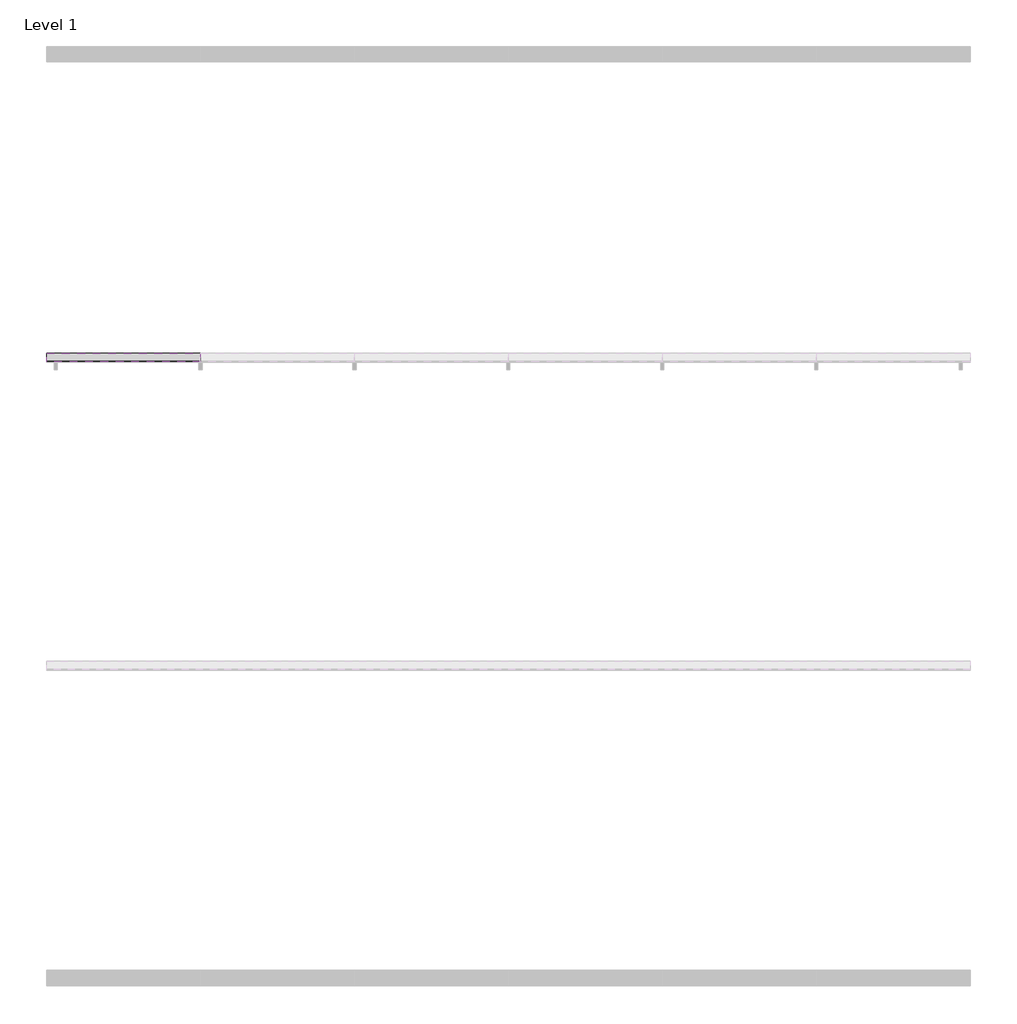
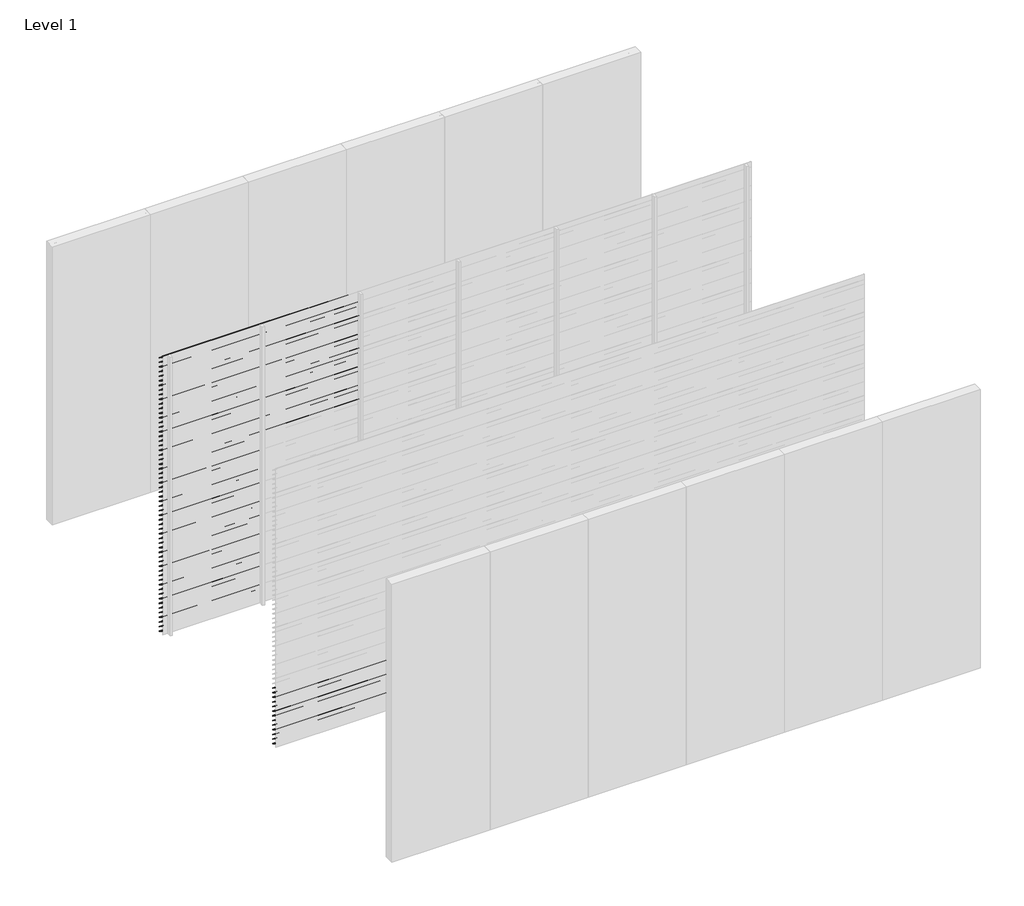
# One storey, part 11 of 18: 97 proxies.
"""IFC4 building model written with IfcOpenShell, lengths in millimetres."""

from ifc_helpers import new_model, si_unit, frame, origin, place, context, project, spatial, polyline, outline, extrude, element, save

model = new_model("IFC4")

# Units and contexts
model_context = context("Model", 3, world=origin())
ifc_project = project(units=[si_unit("LENGTHUNIT", "METRE", prefix="MILLI")], contexts=[model_context])

# Site, building, storey
site = spatial("IfcSite", under=ifc_project)
building = spatial("IfcBuilding", under=site)
storey = spatial("IfcBuildingStorey", under=building, Name="Level 1", Elevation=0.0)

# Proxies
placement = place(None, origin())
element("IfcBuildingElementProxy", 1, Name="Wall Sweeps", at=placement, inside=storey, context=model_context, shape_type="SweptSolid", body=[
    extrude(outline(polyline([(-5995.0, 3000.0), (-5995.0, 2991.0744429), (-5943.0, 2956.0), (-5943.0, 2950.0), (-5997.0, 2986.4234599), (-5997.0, 3000.0), (-5995.0, 3000.0)])), frame((0.0, 0.0, 0.0), z_axis=(1.0, 0.0, 0.0), x_axis=(0.0, 1.0, 0.0)), (0.0, 0.0, 1.0), 1000.0),
])
element("IfcBuildingElementProxy", 2, Name="Wall Sweeps", at=placement, inside=storey, context=model_context, shape_type="SweptSolid", body=[
    extrude(outline(polyline([(-5995.0, 2950.0), (-5995.0, 2941.0744429), (-5943.0, 2906.0), (-5943.0, 2900.0), (-5997.0, 2936.4234599), (-5997.0, 2950.0), (-5995.0, 2950.0)])), frame((0.0, 0.0, 0.0), z_axis=(1.0, 0.0, 0.0), x_axis=(0.0, 1.0, 0.0)), (0.0, 0.0, 1.0), 1000.0),
])
element("IfcBuildingElementProxy", 3, Name="Wall Sweeps", at=placement, inside=storey, context=model_context, shape_type="SweptSolid", body=[
    extrude(outline(polyline([(-5995.0, 2900.0), (-5995.0, 2891.0744429), (-5943.0, 2856.0), (-5943.0, 2850.0), (-5997.0, 2886.4234599), (-5997.0, 2900.0), (-5995.0, 2900.0)])), frame((0.0, 0.0, 0.0), z_axis=(1.0, 0.0, 0.0), x_axis=(0.0, 1.0, 0.0)), (0.0, 0.0, 1.0), 1000.0),
])
element("IfcBuildingElementProxy", 4, Name="Wall Sweeps", at=placement, inside=storey, context=model_context, shape_type="SweptSolid", body=[
    extrude(outline(polyline([(-5995.0, 2850.0), (-5995.0, 2841.0744429), (-5943.0, 2806.0), (-5943.0, 2800.0), (-5997.0, 2836.4234599), (-5997.0, 2850.0), (-5995.0, 2850.0)])), frame((0.0, 0.0, 0.0), z_axis=(1.0, 0.0, 0.0), x_axis=(0.0, 1.0, 0.0)), (0.0, 0.0, 1.0), 1000.0),
])
element("IfcBuildingElementProxy", 5, Name="Wall Sweeps", at=placement, inside=storey, context=model_context, shape_type="SweptSolid", body=[
    extrude(outline(polyline([(-5995.0, 2800.0), (-5995.0, 2791.0744429), (-5943.0, 2756.0), (-5943.0, 2750.0), (-5997.0, 2786.4234599), (-5997.0, 2800.0), (-5995.0, 2800.0)])), frame((0.0, 0.0, 0.0), z_axis=(1.0, 0.0, 0.0), x_axis=(0.0, 1.0, 0.0)), (0.0, 0.0, 1.0), 1000.0),
])
element("IfcBuildingElementProxy", 6, Name="Wall Sweeps", at=placement, inside=storey, context=model_context, shape_type="SweptSolid", body=[
    extrude(outline(polyline([(-5995.0, 2750.0), (-5995.0, 2741.0744429), (-5943.0, 2706.0), (-5943.0, 2700.0), (-5997.0, 2736.4234599), (-5997.0, 2750.0), (-5995.0, 2750.0)])), frame((0.0, 0.0, 0.0), z_axis=(1.0, 0.0, 0.0), x_axis=(0.0, 1.0, 0.0)), (0.0, 0.0, 1.0), 1000.0),
])
element("IfcBuildingElementProxy", 7, Name="Wall Sweeps", at=placement, inside=storey, context=model_context, shape_type="SweptSolid", body=[
    extrude(outline(polyline([(-5995.0, 2700.0), (-5995.0, 2691.0744429), (-5943.0, 2656.0), (-5943.0, 2650.0), (-5997.0, 2686.4234599), (-5997.0, 2700.0), (-5995.0, 2700.0)])), frame((0.0, 0.0, 0.0), z_axis=(1.0, 0.0, 0.0), x_axis=(0.0, 1.0, 0.0)), (0.0, 0.0, 1.0), 1000.0),
])
element("IfcBuildingElementProxy", 8, Name="Wall Sweeps", at=placement, inside=storey, context=model_context, shape_type="SweptSolid", body=[
    extrude(outline(polyline([(-5995.0, 2650.0), (-5995.0, 2641.0744429), (-5943.0, 2606.0), (-5943.0, 2600.0), (-5997.0, 2636.4234599), (-5997.0, 2650.0), (-5995.0, 2650.0)])), frame((0.0, 0.0, 0.0), z_axis=(1.0, 0.0, 0.0), x_axis=(0.0, 1.0, 0.0)), (0.0, 0.0, 1.0), 1000.0),
])
element("IfcBuildingElementProxy", 9, Name="Wall Sweeps", at=placement, inside=storey, context=model_context, shape_type="SweptSolid", body=[
    extrude(outline(polyline([(-5995.0, 2600.0), (-5995.0, 2591.0744429), (-5943.0, 2556.0), (-5943.0, 2550.0), (-5997.0, 2586.4234599), (-5997.0, 2600.0), (-5995.0, 2600.0)])), frame((0.0, 0.0, 0.0), z_axis=(1.0, 0.0, 0.0), x_axis=(0.0, 1.0, 0.0)), (0.0, 0.0, 1.0), 1000.0),
])
element("IfcBuildingElementProxy", 10, Name="Wall Sweeps", at=placement, inside=storey, context=model_context, shape_type="SweptSolid", body=[
    extrude(outline(polyline([(-5995.0, 2550.0), (-5995.0, 2541.0744429), (-5943.0, 2506.0), (-5943.0, 2500.0), (-5997.0, 2536.4234599), (-5997.0, 2550.0), (-5995.0, 2550.0)])), frame((0.0, 0.0, 0.0), z_axis=(1.0, 0.0, 0.0), x_axis=(0.0, 1.0, 0.0)), (0.0, 0.0, 1.0), 1000.0),
])
element("IfcBuildingElementProxy", 11, Name="Wall Sweeps", at=placement, inside=storey, context=model_context, shape_type="SweptSolid", body=[
    extrude(outline(polyline([(-5995.0, 2500.0), (-5995.0, 2491.0744429), (-5943.0, 2456.0), (-5943.0, 2450.0), (-5997.0, 2486.4234599), (-5997.0, 2500.0), (-5995.0, 2500.0)])), frame((0.0, 0.0, 0.0), z_axis=(1.0, 0.0, 0.0), x_axis=(0.0, 1.0, 0.0)), (0.0, 0.0, 1.0), 1000.0),
])
element("IfcBuildingElementProxy", 12, Name="Wall Sweeps", at=placement, inside=storey, context=model_context, shape_type="SweptSolid", body=[
    extrude(outline(polyline([(-5995.0, 2450.0), (-5995.0, 2441.0744429), (-5943.0, 2406.0), (-5943.0, 2400.0), (-5997.0, 2436.4234599), (-5997.0, 2450.0), (-5995.0, 2450.0)])), frame((0.0, 0.0, 0.0), z_axis=(1.0, 0.0, 0.0), x_axis=(0.0, 1.0, 0.0)), (0.0, 0.0, 1.0), 1000.0),
])
element("IfcBuildingElementProxy", 13, Name="Wall Sweeps", at=placement, inside=storey, context=model_context, shape_type="SweptSolid", body=[
    extrude(outline(polyline([(-5995.0, 2400.0), (-5995.0, 2391.0744429), (-5943.0, 2356.0), (-5943.0, 2350.0), (-5997.0, 2386.4234599), (-5997.0, 2400.0), (-5995.0, 2400.0)])), frame((0.0, 0.0, 0.0), z_axis=(1.0, 0.0, 0.0), x_axis=(0.0, 1.0, 0.0)), (0.0, 0.0, 1.0), 1000.0),
])
element("IfcBuildingElementProxy", 14, Name="Wall Sweeps", at=placement, inside=storey, context=model_context, shape_type="SweptSolid", body=[
    extrude(outline(polyline([(-5995.0, 2350.0), (-5995.0, 2341.0744429), (-5943.0, 2306.0), (-5943.0, 2300.0), (-5997.0, 2336.4234599), (-5997.0, 2350.0), (-5995.0, 2350.0)])), frame((0.0, 0.0, 0.0), z_axis=(1.0, 0.0, 0.0), x_axis=(0.0, 1.0, 0.0)), (0.0, 0.0, 1.0), 1000.0),
])
element("IfcBuildingElementProxy", 15, Name="Wall Sweeps", at=placement, inside=storey, context=model_context, shape_type="SweptSolid", body=[
    extrude(outline(polyline([(-5995.0, 2300.0), (-5995.0, 2291.0744429), (-5943.0, 2256.0), (-5943.0, 2250.0), (-5997.0, 2286.4234599), (-5997.0, 2300.0), (-5995.0, 2300.0)])), frame((0.0, 0.0, 0.0), z_axis=(1.0, 0.0, 0.0), x_axis=(0.0, 1.0, 0.0)), (0.0, 0.0, 1.0), 1000.0),
])
element("IfcBuildingElementProxy", 16, Name="Wall Sweeps", at=placement, inside=storey, context=model_context, shape_type="SweptSolid", body=[
    extrude(outline(polyline([(-5995.0, 2250.0), (-5995.0, 2241.0744429), (-5943.0, 2206.0), (-5943.0, 2200.0), (-5997.0, 2236.4234599), (-5997.0, 2250.0), (-5995.0, 2250.0)])), frame((0.0, 0.0, 0.0), z_axis=(1.0, 0.0, 0.0), x_axis=(0.0, 1.0, 0.0)), (0.0, 0.0, 1.0), 1000.0),
])
element("IfcBuildingElementProxy", 17, Name="Wall Sweeps", at=placement, inside=storey, context=model_context, shape_type="SweptSolid", body=[
    extrude(outline(polyline([(-5995.0, 2200.0), (-5995.0, 2191.0744429), (-5943.0, 2156.0), (-5943.0, 2150.0), (-5997.0, 2186.4234599), (-5997.0, 2200.0), (-5995.0, 2200.0)])), frame((0.0, 0.0, 0.0), z_axis=(1.0, 0.0, 0.0), x_axis=(0.0, 1.0, 0.0)), (0.0, 0.0, 1.0), 1000.0),
])
element("IfcBuildingElementProxy", 18, Name="Wall Sweeps", at=placement, inside=storey, context=model_context, shape_type="SweptSolid", body=[
    extrude(outline(polyline([(-5995.0, 2150.0), (-5995.0, 2141.0744429), (-5943.0, 2106.0), (-5943.0, 2100.0), (-5997.0, 2136.4234599), (-5997.0, 2150.0), (-5995.0, 2150.0)])), frame((0.0, 0.0, 0.0), z_axis=(1.0, 0.0, 0.0), x_axis=(0.0, 1.0, 0.0)), (0.0, 0.0, 1.0), 1000.0),
])
element("IfcBuildingElementProxy", 19, Name="Wall Sweeps", at=placement, inside=storey, context=model_context, shape_type="SweptSolid", body=[
    extrude(outline(polyline([(-5995.0, 2100.0), (-5995.0, 2091.0744429), (-5943.0, 2056.0), (-5943.0, 2050.0), (-5997.0, 2086.4234599), (-5997.0, 2100.0), (-5995.0, 2100.0)])), frame((0.0, 0.0, 0.0), z_axis=(1.0, 0.0, 0.0), x_axis=(0.0, 1.0, 0.0)), (0.0, 0.0, 1.0), 1000.0),
])
element("IfcBuildingElementProxy", 20, Name="Wall Sweeps", at=placement, inside=storey, context=model_context, shape_type="SweptSolid", body=[
    extrude(outline(polyline([(-5995.0, 2050.0), (-5995.0, 2041.0744429), (-5943.0, 2006.0), (-5943.0, 2000.0), (-5997.0, 2036.4234599), (-5997.0, 2050.0), (-5995.0, 2050.0)])), frame((0.0, 0.0, 0.0), z_axis=(1.0, 0.0, 0.0), x_axis=(0.0, 1.0, 0.0)), (0.0, 0.0, 1.0), 1000.0),
])
element("IfcBuildingElementProxy", 21, Name="Wall Sweeps", at=placement, inside=storey, context=model_context, shape_type="SweptSolid", body=[
    extrude(outline(polyline([(-5995.0, 2000.0), (-5995.0, 1991.0744429), (-5943.0, 1956.0), (-5943.0, 1950.0), (-5997.0, 1986.4234599), (-5997.0, 2000.0), (-5995.0, 2000.0)])), frame((0.0, 0.0, 0.0), z_axis=(1.0, 0.0, 0.0), x_axis=(0.0, 1.0, 0.0)), (0.0, 0.0, 1.0), 1000.0),
])
element("IfcBuildingElementProxy", 22, Name="Wall Sweeps", at=placement, inside=storey, context=model_context, shape_type="SweptSolid", body=[
    extrude(outline(polyline([(-5995.0, 1950.0), (-5995.0, 1941.0744429), (-5943.0, 1906.0), (-5943.0, 1900.0), (-5997.0, 1936.4234599), (-5997.0, 1950.0), (-5995.0, 1950.0)])), frame((0.0, 0.0, 0.0), z_axis=(1.0, 0.0, 0.0), x_axis=(0.0, 1.0, 0.0)), (0.0, 0.0, 1.0), 1000.0),
])
element("IfcBuildingElementProxy", 23, Name="Wall Sweeps", at=placement, inside=storey, context=model_context, shape_type="SweptSolid", body=[
    extrude(outline(polyline([(-5995.0, 1900.0), (-5995.0, 1891.0744429), (-5943.0, 1856.0), (-5943.0, 1850.0), (-5997.0, 1886.4234599), (-5997.0, 1900.0), (-5995.0, 1900.0)])), frame((0.0, 0.0, 0.0), z_axis=(1.0, 0.0, 0.0), x_axis=(0.0, 1.0, 0.0)), (0.0, 0.0, 1.0), 1000.0),
])
element("IfcBuildingElementProxy", 24, Name="Wall Sweeps", at=placement, inside=storey, context=model_context, shape_type="SweptSolid", body=[
    extrude(outline(polyline([(-5995.0, 1850.0), (-5995.0, 1841.0744429), (-5943.0, 1806.0), (-5943.0, 1800.0), (-5997.0, 1836.4234599), (-5997.0, 1850.0), (-5995.0, 1850.0)])), frame((0.0, 0.0, 0.0), z_axis=(1.0, 0.0, 0.0), x_axis=(0.0, 1.0, 0.0)), (0.0, 0.0, 1.0), 1000.0),
])
element("IfcBuildingElementProxy", 25, Name="Wall Sweeps", at=placement, inside=storey, context=model_context, shape_type="SweptSolid", body=[
    extrude(outline(polyline([(-5995.0, 1800.0), (-5995.0, 1791.0744429), (-5943.0, 1756.0), (-5943.0, 1750.0), (-5997.0, 1786.4234599), (-5997.0, 1800.0), (-5995.0, 1800.0)])), frame((0.0, 0.0, 0.0), z_axis=(1.0, 0.0, 0.0), x_axis=(0.0, 1.0, 0.0)), (0.0, 0.0, 1.0), 1000.0),
])
element("IfcBuildingElementProxy", 26, Name="Wall Sweeps", at=placement, inside=storey, context=model_context, shape_type="SweptSolid", body=[
    extrude(outline(polyline([(-5995.0, 1750.0), (-5995.0, 1741.0744429), (-5943.0, 1706.0), (-5943.0, 1700.0), (-5997.0, 1736.4234599), (-5997.0, 1750.0), (-5995.0, 1750.0)])), frame((0.0, 0.0, 0.0), z_axis=(1.0, 0.0, 0.0), x_axis=(0.0, 1.0, 0.0)), (0.0, 0.0, 1.0), 1000.0),
])
element("IfcBuildingElementProxy", 27, Name="Wall Sweeps", at=placement, inside=storey, context=model_context, shape_type="SweptSolid", body=[
    extrude(outline(polyline([(-5995.0, 1700.0), (-5995.0, 1691.0744429), (-5943.0, 1656.0), (-5943.0, 1650.0), (-5997.0, 1686.4234599), (-5997.0, 1700.0), (-5995.0, 1700.0)])), frame((0.0, 0.0, 0.0), z_axis=(1.0, 0.0, 0.0), x_axis=(0.0, 1.0, 0.0)), (0.0, 0.0, 1.0), 1000.0),
])
element("IfcBuildingElementProxy", 28, Name="Wall Sweeps", at=placement, inside=storey, context=model_context, shape_type="SweptSolid", body=[
    extrude(outline(polyline([(-5995.0, 1650.0), (-5995.0, 1641.0744429), (-5943.0, 1606.0), (-5943.0, 1600.0), (-5997.0, 1636.4234599), (-5997.0, 1650.0), (-5995.0, 1650.0)])), frame((0.0, 0.0, 0.0), z_axis=(1.0, 0.0, 0.0), x_axis=(0.0, 1.0, 0.0)), (0.0, 0.0, 1.0), 1000.0),
])
element("IfcBuildingElementProxy", 29, Name="Wall Sweeps", at=placement, inside=storey, context=model_context, shape_type="SweptSolid", body=[
    extrude(outline(polyline([(-5995.0, 1600.0), (-5995.0, 1591.0744429), (-5943.0, 1556.0), (-5943.0, 1550.0), (-5997.0, 1586.4234599), (-5997.0, 1600.0), (-5995.0, 1600.0)])), frame((0.0, 0.0, 0.0), z_axis=(1.0, 0.0, 0.0), x_axis=(0.0, 1.0, 0.0)), (0.0, 0.0, 1.0), 1000.0),
])
element("IfcBuildingElementProxy", 30, Name="Wall Sweeps", at=placement, inside=storey, context=model_context, shape_type="SweptSolid", body=[
    extrude(outline(polyline([(-5995.0, 1550.0), (-5995.0, 1541.0744429), (-5943.0, 1506.0), (-5943.0, 1500.0), (-5997.0, 1536.4234599), (-5997.0, 1550.0), (-5995.0, 1550.0)])), frame((0.0, 0.0, 0.0), z_axis=(1.0, 0.0, 0.0), x_axis=(0.0, 1.0, 0.0)), (0.0, 0.0, 1.0), 1000.0),
])
element("IfcBuildingElementProxy", 31, Name="Wall Sweeps", at=placement, inside=storey, context=model_context, shape_type="SweptSolid", body=[
    extrude(outline(polyline([(-5995.0, 1500.0), (-5995.0, 1491.0744429), (-5943.0, 1456.0), (-5943.0, 1450.0), (-5997.0, 1486.4234599), (-5997.0, 1500.0), (-5995.0, 1500.0)])), frame((0.0, 0.0, 0.0), z_axis=(1.0, 0.0, 0.0), x_axis=(0.0, 1.0, 0.0)), (0.0, 0.0, 1.0), 1000.0),
])
element("IfcBuildingElementProxy", 32, Name="Wall Sweeps", at=placement, inside=storey, context=model_context, shape_type="SweptSolid", body=[
    extrude(outline(polyline([(-5995.0, 1450.0), (-5995.0, 1441.0744429), (-5943.0, 1406.0), (-5943.0, 1400.0), (-5997.0, 1436.4234599), (-5997.0, 1450.0), (-5995.0, 1450.0)])), frame((0.0, 0.0, 0.0), z_axis=(1.0, 0.0, 0.0), x_axis=(0.0, 1.0, 0.0)), (0.0, 0.0, 1.0), 1000.0),
])
element("IfcBuildingElementProxy", 33, Name="Wall Sweeps", at=placement, inside=storey, context=model_context, shape_type="SweptSolid", body=[
    extrude(outline(polyline([(-5995.0, 1400.0), (-5995.0, 1391.0744429), (-5943.0, 1356.0), (-5943.0, 1350.0), (-5997.0, 1386.4234599), (-5997.0, 1400.0), (-5995.0, 1400.0)])), frame((0.0, 0.0, 0.0), z_axis=(1.0, 0.0, 0.0), x_axis=(0.0, 1.0, 0.0)), (0.0, 0.0, 1.0), 1000.0),
])
element("IfcBuildingElementProxy", 34, Name="Wall Sweeps", at=placement, inside=storey, context=model_context, shape_type="SweptSolid", body=[
    extrude(outline(polyline([(-5995.0, 1350.0), (-5995.0, 1341.0744429), (-5943.0, 1306.0), (-5943.0, 1300.0), (-5997.0, 1336.4234599), (-5997.0, 1350.0), (-5995.0, 1350.0)])), frame((0.0, 0.0, 0.0), z_axis=(1.0, 0.0, 0.0), x_axis=(0.0, 1.0, 0.0)), (0.0, 0.0, 1.0), 1000.0),
])
element("IfcBuildingElementProxy", 35, Name="Wall Sweeps", at=placement, inside=storey, context=model_context, shape_type="SweptSolid", body=[
    extrude(outline(polyline([(-5995.0, 1300.0), (-5995.0, 1291.0744429), (-5943.0, 1256.0), (-5943.0, 1250.0), (-5997.0, 1286.4234599), (-5997.0, 1300.0), (-5995.0, 1300.0)])), frame((0.0, 0.0, 0.0), z_axis=(1.0, 0.0, 0.0), x_axis=(0.0, 1.0, 0.0)), (0.0, 0.0, 1.0), 1000.0),
])
element("IfcBuildingElementProxy", 36, Name="Wall Sweeps", at=placement, inside=storey, context=model_context, shape_type="SweptSolid", body=[
    extrude(outline(polyline([(-5995.0, 1250.0), (-5995.0, 1241.0744429), (-5943.0, 1206.0), (-5943.0, 1200.0), (-5997.0, 1236.4234599), (-5997.0, 1250.0), (-5995.0, 1250.0)])), frame((0.0, 0.0, 0.0), z_axis=(1.0, 0.0, 0.0), x_axis=(0.0, 1.0, 0.0)), (0.0, 0.0, 1.0), 1000.0),
])
element("IfcBuildingElementProxy", 37, Name="Wall Sweeps", at=placement, inside=storey, context=model_context, shape_type="SweptSolid", body=[
    extrude(outline(polyline([(-5995.0, 1200.0), (-5995.0, 1191.0744429), (-5943.0, 1156.0), (-5943.0, 1150.0), (-5997.0, 1186.4234599), (-5997.0, 1200.0), (-5995.0, 1200.0)])), frame((0.0, 0.0, 0.0), z_axis=(1.0, 0.0, 0.0), x_axis=(0.0, 1.0, 0.0)), (0.0, 0.0, 1.0), 1000.0),
])
element("IfcBuildingElementProxy", 38, Name="Wall Sweeps", at=placement, inside=storey, context=model_context, shape_type="SweptSolid", body=[
    extrude(outline(polyline([(-5995.0, 1150.0), (-5995.0, 1141.0744429), (-5943.0, 1106.0), (-5943.0, 1100.0), (-5997.0, 1136.4234599), (-5997.0, 1150.0), (-5995.0, 1150.0)])), frame((0.0, 0.0, 0.0), z_axis=(1.0, 0.0, 0.0), x_axis=(0.0, 1.0, 0.0)), (0.0, 0.0, 1.0), 1000.0),
])
element("IfcBuildingElementProxy", 39, Name="Wall Sweeps", at=placement, inside=storey, context=model_context, shape_type="SweptSolid", body=[
    extrude(outline(polyline([(-5995.0, 1100.0), (-5995.0, 1091.0744429), (-5943.0, 1056.0), (-5943.0, 1050.0), (-5997.0, 1086.4234599), (-5997.0, 1100.0), (-5995.0, 1100.0)])), frame((0.0, 0.0, 0.0), z_axis=(1.0, 0.0, 0.0), x_axis=(0.0, 1.0, 0.0)), (0.0, 0.0, 1.0), 1000.0),
])
element("IfcBuildingElementProxy", 40, Name="Wall Sweeps", at=placement, inside=storey, context=model_context, shape_type="SweptSolid", body=[
    extrude(outline(polyline([(-5995.0, 1050.0), (-5995.0, 1041.0744429), (-5943.0, 1006.0), (-5943.0, 1000.0), (-5997.0, 1036.4234599), (-5997.0, 1050.0), (-5995.0, 1050.0)])), frame((0.0, 0.0, 0.0), z_axis=(1.0, 0.0, 0.0), x_axis=(0.0, 1.0, 0.0)), (0.0, 0.0, 1.0), 1000.0),
])
element("IfcBuildingElementProxy", 41, Name="Wall Sweeps", at=placement, inside=storey, context=model_context, shape_type="SweptSolid", body=[
    extrude(outline(polyline([(-5995.0, 1000.0), (-5995.0, 991.0744429), (-5943.0, 956.0), (-5943.0, 950.0), (-5997.0, 986.4234599), (-5997.0, 1000.0), (-5995.0, 1000.0)])), frame((0.0, 0.0, 0.0), z_axis=(1.0, 0.0, 0.0), x_axis=(0.0, 1.0, 0.0)), (0.0, 0.0, 1.0), 1000.0),
])
element("IfcBuildingElementProxy", 42, Name="Wall Sweeps", at=placement, inside=storey, context=model_context, shape_type="SweptSolid", body=[
    extrude(outline(polyline([(-5995.0, 950.0), (-5995.0, 941.0744429), (-5943.0, 906.0), (-5943.0, 900.0), (-5997.0, 936.4234599), (-5997.0, 950.0), (-5995.0, 950.0)])), frame((0.0, 0.0, 0.0), z_axis=(1.0, 0.0, 0.0), x_axis=(0.0, 1.0, 0.0)), (0.0, 0.0, 1.0), 1000.0),
])
element("IfcBuildingElementProxy", 43, Name="Wall Sweeps", at=placement, inside=storey, context=model_context, shape_type="SweptSolid", body=[
    extrude(outline(polyline([(-5995.0, 900.0), (-5995.0, 891.0744429), (-5943.0, 856.0), (-5943.0, 850.0), (-5997.0, 886.4234599), (-5997.0, 900.0), (-5995.0, 900.0)])), frame((0.0, 0.0, 0.0), z_axis=(1.0, 0.0, 0.0), x_axis=(0.0, 1.0, 0.0)), (0.0, 0.0, 1.0), 1000.0),
])
element("IfcBuildingElementProxy", 44, Name="Wall Sweeps", at=placement, inside=storey, context=model_context, shape_type="SweptSolid", body=[
    extrude(outline(polyline([(-5995.0, 850.0), (-5995.0, 841.0744429), (-5943.0, 806.0), (-5943.0, 800.0), (-5997.0, 836.4234599), (-5997.0, 850.0), (-5995.0, 850.0)])), frame((0.0, 0.0, 0.0), z_axis=(1.0, 0.0, 0.0), x_axis=(0.0, 1.0, 0.0)), (0.0, 0.0, 1.0), 1000.0),
])
element("IfcBuildingElementProxy", 45, Name="Wall Sweeps", at=placement, inside=storey, context=model_context, shape_type="SweptSolid", body=[
    extrude(outline(polyline([(-5995.0, 800.0), (-5995.0, 791.0744429), (-5943.0, 756.0), (-5943.0, 750.0), (-5997.0, 786.4234599), (-5997.0, 800.0), (-5995.0, 800.0)])), frame((0.0, 0.0, 0.0), z_axis=(1.0, 0.0, 0.0), x_axis=(0.0, 1.0, 0.0)), (0.0, 0.0, 1.0), 1000.0),
])
element("IfcBuildingElementProxy", 46, Name="Wall Sweeps", at=placement, inside=storey, context=model_context, shape_type="SweptSolid", body=[
    extrude(outline(polyline([(-5995.0, 750.0), (-5995.0, 741.0744429), (-5943.0, 706.0), (-5943.0, 700.0), (-5997.0, 736.4234599), (-5997.0, 750.0), (-5995.0, 750.0)])), frame((0.0, 0.0, 0.0), z_axis=(1.0, 0.0, 0.0), x_axis=(0.0, 1.0, 0.0)), (0.0, 0.0, 1.0), 1000.0),
])
element("IfcBuildingElementProxy", 47, Name="Wall Sweeps", at=placement, inside=storey, context=model_context, shape_type="SweptSolid", body=[
    extrude(outline(polyline([(-5995.0, 700.0), (-5995.0, 691.0744429), (-5943.0, 656.0), (-5943.0, 650.0), (-5997.0, 686.4234599), (-5997.0, 700.0), (-5995.0, 700.0)])), frame((0.0, 0.0, 0.0), z_axis=(1.0, 0.0, 0.0), x_axis=(0.0, 1.0, 0.0)), (0.0, 0.0, 1.0), 1000.0),
])
element("IfcBuildingElementProxy", 48, Name="Wall Sweeps", at=placement, inside=storey, context=model_context, shape_type="SweptSolid", body=[
    extrude(outline(polyline([(-5995.0, 650.0), (-5995.0, 641.0744429), (-5943.0, 606.0), (-5943.0, 600.0), (-5997.0, 636.4234599), (-5997.0, 650.0), (-5995.0, 650.0)])), frame((0.0, 0.0, 0.0), z_axis=(1.0, 0.0, 0.0), x_axis=(0.0, 1.0, 0.0)), (0.0, 0.0, 1.0), 1000.0),
])
element("IfcBuildingElementProxy", 49, Name="Wall Sweeps", at=placement, inside=storey, context=model_context, shape_type="SweptSolid", body=[
    extrude(outline(polyline([(-5995.0, 600.0), (-5995.0, 591.0744429), (-5943.0, 556.0), (-5943.0, 550.0), (-5997.0, 586.4234599), (-5997.0, 600.0), (-5995.0, 600.0)])), frame((0.0, 0.0, 0.0), z_axis=(1.0, 0.0, 0.0), x_axis=(0.0, 1.0, 0.0)), (0.0, 0.0, 1.0), 1000.0),
])
element("IfcBuildingElementProxy", 50, Name="Wall Sweeps", at=placement, inside=storey, context=model_context, shape_type="SweptSolid", body=[
    extrude(outline(polyline([(-5995.0, 550.0), (-5995.0, 541.0744429), (-5943.0, 506.0), (-5943.0, 500.0), (-5997.0, 536.4234599), (-5997.0, 550.0), (-5995.0, 550.0)])), frame((0.0, 0.0, 0.0), z_axis=(1.0, 0.0, 0.0), x_axis=(0.0, 1.0, 0.0)), (0.0, 0.0, 1.0), 1000.0),
])
element("IfcBuildingElementProxy", 51, Name="Wall Sweeps", at=placement, inside=storey, context=model_context, shape_type="SweptSolid", body=[
    extrude(outline(polyline([(-5995.0, 500.0), (-5995.0, 491.0744429), (-5943.0, 456.0), (-5943.0, 450.0), (-5997.0, 486.4234599), (-5997.0, 500.0), (-5995.0, 500.0)])), frame((0.0, 0.0, 0.0), z_axis=(1.0, 0.0, 0.0), x_axis=(0.0, 1.0, 0.0)), (0.0, 0.0, 1.0), 1000.0),
])
element("IfcBuildingElementProxy", 52, Name="Wall Sweeps", at=placement, inside=storey, context=model_context, shape_type="SweptSolid", body=[
    extrude(outline(polyline([(-5995.0, 450.0), (-5995.0, 441.0744429), (-5943.0, 406.0), (-5943.0, 400.0), (-5997.0, 436.4234599), (-5997.0, 450.0), (-5995.0, 450.0)])), frame((0.0, 0.0, 0.0), z_axis=(1.0, 0.0, 0.0), x_axis=(0.0, 1.0, 0.0)), (0.0, 0.0, 1.0), 1000.0),
])
element("IfcBuildingElementProxy", 53, Name="Wall Sweeps", at=placement, inside=storey, context=model_context, shape_type="SweptSolid", body=[
    extrude(outline(polyline([(-5995.0, 400.0), (-5995.0, 391.0744429), (-5943.0, 356.0), (-5943.0, 350.0), (-5997.0, 386.4234599), (-5997.0, 400.0), (-5995.0, 400.0)])), frame((0.0, 0.0, 0.0), z_axis=(1.0, 0.0, 0.0), x_axis=(0.0, 1.0, 0.0)), (0.0, 0.0, 1.0), 1000.0),
])
element("IfcBuildingElementProxy", 54, Name="Wall Sweeps", at=placement, inside=storey, context=model_context, shape_type="SweptSolid", body=[
    extrude(outline(polyline([(-5995.0, 350.0), (-5995.0, 341.0744429), (-5943.0, 306.0), (-5943.0, 300.0), (-5997.0, 336.4234599), (-5997.0, 350.0), (-5995.0, 350.0)])), frame((0.0, 0.0, 0.0), z_axis=(1.0, 0.0, 0.0), x_axis=(0.0, 1.0, 0.0)), (0.0, 0.0, 1.0), 1000.0),
])
element("IfcBuildingElementProxy", 55, Name="Wall Sweeps", at=placement, inside=storey, context=model_context, shape_type="SweptSolid", body=[
    extrude(outline(polyline([(-5995.0, 300.0), (-5995.0, 291.0744429), (-5943.0, 256.0), (-5943.0, 250.0), (-5997.0, 286.4234599), (-5997.0, 300.0), (-5995.0, 300.0)])), frame((0.0, 0.0, 0.0), z_axis=(1.0, 0.0, 0.0), x_axis=(0.0, 1.0, 0.0)), (0.0, 0.0, 1.0), 1000.0),
])
element("IfcBuildingElementProxy", 56, Name="Wall Sweeps", at=placement, inside=storey, context=model_context, shape_type="SweptSolid", body=[
    extrude(outline(polyline([(-5995.0, 250.0), (-5995.0, 241.0744429), (-5943.0, 206.0), (-5943.0, 200.0), (-5997.0, 236.4234599), (-5997.0, 250.0), (-5995.0, 250.0)])), frame((0.0, 0.0, 0.0), z_axis=(1.0, 0.0, 0.0), x_axis=(0.0, 1.0, 0.0)), (0.0, 0.0, 1.0), 1000.0),
])
element("IfcBuildingElementProxy", 57, Name="Wall Sweeps", at=placement, inside=storey, context=model_context, shape_type="SweptSolid", body=[
    extrude(outline(polyline([(-5995.0, 200.0), (-5995.0, 191.0744429), (-5943.0, 156.0), (-5943.0, 150.0), (-5997.0, 186.4234599), (-5997.0, 200.0), (-5995.0, 200.0)])), frame((0.0, 0.0, 0.0), z_axis=(1.0, 0.0, 0.0), x_axis=(0.0, 1.0, 0.0)), (0.0, 0.0, 1.0), 1000.0),
])
element("IfcBuildingElementProxy", 58, Name="Wall Sweeps", at=placement, inside=storey, context=model_context, shape_type="SweptSolid", body=[
    extrude(outline(polyline([(-5995.0, 150.0), (-5995.0, 141.0744429), (-5943.0, 106.0), (-5943.0, 100.0), (-5997.0, 136.4234599), (-5997.0, 150.0), (-5995.0, 150.0)])), frame((0.0, 0.0, 0.0), z_axis=(1.0, 0.0, 0.0), x_axis=(0.0, 1.0, 0.0)), (0.0, 0.0, 1.0), 1000.0),
])
element("IfcBuildingElementProxy", 59, Name="Wall Sweeps", at=placement, inside=storey, context=model_context, shape_type="SweptSolid", body=[
    extrude(outline(polyline([(-5995.0, 100.0), (-5995.0, 91.0744429), (-5943.0, 56.0), (-5943.0, 50.0), (-5997.0, 86.4234599), (-5997.0, 100.0), (-5995.0, 100.0)])), frame((0.0, 0.0, 0.0), z_axis=(1.0, 0.0, 0.0), x_axis=(0.0, 1.0, 0.0)), (0.0, 0.0, 1.0), 1000.0),
])
element("IfcBuildingElementProxy", 60, Name="Wall Sweeps", at=placement, inside=storey, context=model_context, shape_type="SweptSolid", body=[
    extrude(outline(polyline([(-5995.0, 50.0), (-5995.0, 41.0744429), (-5943.0, 6.0), (-5943.0, 0.0), (-5997.0, 36.4234599), (-5997.0, 50.0), (-5995.0, 50.0)])), frame((0.0, 0.0, 0.0), z_axis=(1.0, 0.0, 0.0), x_axis=(0.0, 1.0, 0.0)), (0.0, 0.0, 1.0), 1000.0),
])
element("IfcBuildingElementProxy", 61, Name="Wall Sweeps", at=placement, inside=storey, context=model_context, shape_type="SweptSolid", body=[
    extrude(outline(polyline([(-5995.0, 3000.0), (-5995.0, 2991.0744429), (-5943.0, 2956.0), (-5943.0, 2950.0), (-5997.0, 2986.4234599), (-5997.0, 3000.0), (-5995.0, 3000.0)])), frame((1000.0, 0.0, 0.0), z_axis=(1.0, 0.0, 0.0), x_axis=(0.0, 1.0, 0.0)), (0.0, 0.0, 1.0), 1000.0),
])
element("IfcBuildingElementProxy", 62, Name="Wall Sweeps", at=placement, inside=storey, context=model_context, shape_type="SweptSolid", body=[
    extrude(outline(polyline([(-5995.0, 2950.0), (-5995.0, 2941.0744429), (-5943.0, 2906.0), (-5943.0, 2900.0), (-5997.0, 2936.4234599), (-5997.0, 2950.0), (-5995.0, 2950.0)])), frame((1000.0, 0.0, 0.0), z_axis=(1.0, 0.0, 0.0), x_axis=(0.0, 1.0, 0.0)), (0.0, 0.0, 1.0), 1000.0),
])
element("IfcBuildingElementProxy", 63, Name="Wall Sweeps", at=placement, inside=storey, context=model_context, shape_type="SweptSolid", body=[
    extrude(outline(polyline([(-5995.0, 2900.0), (-5995.0, 2891.0744429), (-5943.0, 2856.0), (-5943.0, 2850.0), (-5997.0, 2886.4234599), (-5997.0, 2900.0), (-5995.0, 2900.0)])), frame((1000.0, 0.0, 0.0), z_axis=(1.0, 0.0, 0.0), x_axis=(0.0, 1.0, 0.0)), (0.0, 0.0, 1.0), 1000.0),
])
element("IfcBuildingElementProxy", 64, Name="Wall Sweeps", at=placement, inside=storey, context=model_context, shape_type="SweptSolid", body=[
    extrude(outline(polyline([(-5995.0, 2850.0), (-5995.0, 2841.0744429), (-5943.0, 2806.0), (-5943.0, 2800.0), (-5997.0, 2836.4234599), (-5997.0, 2850.0), (-5995.0, 2850.0)])), frame((1000.0, 0.0, 0.0), z_axis=(1.0, 0.0, 0.0), x_axis=(0.0, 1.0, 0.0)), (0.0, 0.0, 1.0), 1000.0),
])
element("IfcBuildingElementProxy", 65, Name="Wall Sweeps", at=placement, inside=storey, context=model_context, shape_type="SweptSolid", body=[
    extrude(outline(polyline([(-5995.0, 2800.0), (-5995.0, 2791.0744429), (-5943.0, 2756.0), (-5943.0, 2750.0), (-5997.0, 2786.4234599), (-5997.0, 2800.0), (-5995.0, 2800.0)])), frame((1000.0, 0.0, 0.0), z_axis=(1.0, 0.0, 0.0), x_axis=(0.0, 1.0, 0.0)), (0.0, 0.0, 1.0), 1000.0),
])
element("IfcBuildingElementProxy", 66, Name="Wall Sweeps", at=placement, inside=storey, context=model_context, shape_type="SweptSolid", body=[
    extrude(outline(polyline([(-5995.0, 2750.0), (-5995.0, 2741.0744429), (-5943.0, 2706.0), (-5943.0, 2700.0), (-5997.0, 2736.4234599), (-5997.0, 2750.0), (-5995.0, 2750.0)])), frame((1000.0, 0.0, 0.0), z_axis=(1.0, 0.0, 0.0), x_axis=(0.0, 1.0, 0.0)), (0.0, 0.0, 1.0), 1000.0),
])
element("IfcBuildingElementProxy", 67, Name="Wall Sweeps", at=placement, inside=storey, context=model_context, shape_type="SweptSolid", body=[
    extrude(outline(polyline([(-5995.0, 2700.0), (-5995.0, 2691.0744429), (-5943.0, 2656.0), (-5943.0, 2650.0), (-5997.0, 2686.4234599), (-5997.0, 2700.0), (-5995.0, 2700.0)])), frame((1000.0, 0.0, 0.0), z_axis=(1.0, 0.0, 0.0), x_axis=(0.0, 1.0, 0.0)), (0.0, 0.0, 1.0), 1000.0),
])
element("IfcBuildingElementProxy", 68, Name="Wall Sweeps", at=placement, inside=storey, context=model_context, shape_type="SweptSolid", body=[
    extrude(outline(polyline([(-5995.0, 2650.0), (-5995.0, 2641.0744429), (-5943.0, 2606.0), (-5943.0, 2600.0), (-5997.0, 2636.4234599), (-5997.0, 2650.0), (-5995.0, 2650.0)])), frame((1000.0, 0.0, 0.0), z_axis=(1.0, 0.0, 0.0), x_axis=(0.0, 1.0, 0.0)), (0.0, 0.0, 1.0), 1000.0),
])
element("IfcBuildingElementProxy", 69, Name="Wall Sweeps", at=placement, inside=storey, context=model_context, shape_type="SweptSolid", body=[
    extrude(outline(polyline([(-5995.0, 2600.0), (-5995.0, 2591.0744429), (-5943.0, 2556.0), (-5943.0, 2550.0), (-5997.0, 2586.4234599), (-5997.0, 2600.0), (-5995.0, 2600.0)])), frame((1000.0, 0.0, 0.0), z_axis=(1.0, 0.0, 0.0), x_axis=(0.0, 1.0, 0.0)), (0.0, 0.0, 1.0), 1000.0),
])
element("IfcBuildingElementProxy", 70, Name="Wall Sweeps", at=placement, inside=storey, context=model_context, shape_type="SweptSolid", body=[
    extrude(outline(polyline([(-5995.0, 2550.0), (-5995.0, 2541.0744429), (-5943.0, 2506.0), (-5943.0, 2500.0), (-5997.0, 2536.4234599), (-5997.0, 2550.0), (-5995.0, 2550.0)])), frame((1000.0, 0.0, 0.0), z_axis=(1.0, 0.0, 0.0), x_axis=(0.0, 1.0, 0.0)), (0.0, 0.0, 1.0), 1000.0),
])
element("IfcBuildingElementProxy", 71, Name="Wall Sweeps", at=placement, inside=storey, context=model_context, shape_type="SweptSolid", body=[
    extrude(outline(polyline([(-5995.0, 2500.0), (-5995.0, 2491.0744429), (-5943.0, 2456.0), (-5943.0, 2450.0), (-5997.0, 2486.4234599), (-5997.0, 2500.0), (-5995.0, 2500.0)])), frame((1000.0, 0.0, 0.0), z_axis=(1.0, 0.0, 0.0), x_axis=(0.0, 1.0, 0.0)), (0.0, 0.0, 1.0), 1000.0),
])
element("IfcBuildingElementProxy", 72, Name="Wall Sweeps", at=placement, inside=storey, context=model_context, shape_type="SweptSolid", body=[
    extrude(outline(polyline([(-5995.0, 2450.0), (-5995.0, 2441.0744429), (-5943.0, 2406.0), (-5943.0, 2400.0), (-5997.0, 2436.4234599), (-5997.0, 2450.0), (-5995.0, 2450.0)])), frame((1000.0, 0.0, 0.0), z_axis=(1.0, 0.0, 0.0), x_axis=(0.0, 1.0, 0.0)), (0.0, 0.0, 1.0), 1000.0),
])
element("IfcBuildingElementProxy", 73, Name="Wall Sweeps", at=placement, inside=storey, context=model_context, shape_type="SweptSolid", body=[
    extrude(outline(polyline([(-5995.0, 2400.0), (-5995.0, 2391.0744429), (-5943.0, 2356.0), (-5943.0, 2350.0), (-5997.0, 2386.4234599), (-5997.0, 2400.0), (-5995.0, 2400.0)])), frame((1000.0, 0.0, 0.0), z_axis=(1.0, 0.0, 0.0), x_axis=(0.0, 1.0, 0.0)), (0.0, 0.0, 1.0), 1000.0),
])
element("IfcBuildingElementProxy", 74, Name="Wall Sweeps", at=placement, inside=storey, context=model_context, shape_type="SweptSolid", body=[
    extrude(outline(polyline([(-5995.0, 2350.0), (-5995.0, 2341.0744429), (-5943.0, 2306.0), (-5943.0, 2300.0), (-5997.0, 2336.4234599), (-5997.0, 2350.0), (-5995.0, 2350.0)])), frame((1000.0, 0.0, 0.0), z_axis=(1.0, 0.0, 0.0), x_axis=(0.0, 1.0, 0.0)), (0.0, 0.0, 1.0), 1000.0),
])
element("IfcBuildingElementProxy", 75, Name="Wall Sweeps", at=placement, inside=storey, context=model_context, shape_type="SweptSolid", body=[
    extrude(outline(polyline([(-5995.0, 2300.0), (-5995.0, 2291.0744429), (-5943.0, 2256.0), (-5943.0, 2250.0), (-5997.0, 2286.4234599), (-5997.0, 2300.0), (-5995.0, 2300.0)])), frame((1000.0, 0.0, 0.0), z_axis=(1.0, 0.0, 0.0), x_axis=(0.0, 1.0, 0.0)), (0.0, 0.0, 1.0), 1000.0),
])
element("IfcBuildingElementProxy", 76, Name="Wall Sweeps", at=placement, inside=storey, context=model_context, shape_type="SweptSolid", body=[
    extrude(outline(polyline([(-5995.0, 2250.0), (-5995.0, 2241.0744429), (-5943.0, 2206.0), (-5943.0, 2200.0), (-5997.0, 2236.4234599), (-5997.0, 2250.0), (-5995.0, 2250.0)])), frame((1000.0, 0.0, 0.0), z_axis=(1.0, 0.0, 0.0), x_axis=(0.0, 1.0, 0.0)), (0.0, 0.0, 1.0), 1000.0),
])
element("IfcBuildingElementProxy", 77, Name="Wall Sweeps", at=placement, inside=storey, context=model_context, shape_type="SweptSolid", body=[
    extrude(outline(polyline([(-5995.0, 2200.0), (-5995.0, 2191.0744429), (-5943.0, 2156.0), (-5943.0, 2150.0), (-5997.0, 2186.4234599), (-5997.0, 2200.0), (-5995.0, 2200.0)])), frame((1000.0, 0.0, 0.0), z_axis=(1.0, 0.0, 0.0), x_axis=(0.0, 1.0, 0.0)), (0.0, 0.0, 1.0), 1000.0),
])
element("IfcBuildingElementProxy", 78, Name="Wall Sweeps", at=placement, inside=storey, context=model_context, shape_type="SweptSolid", body=[
    extrude(outline(polyline([(-5995.0, 2150.0), (-5995.0, 2141.0744429), (-5943.0, 2106.0), (-5943.0, 2100.0), (-5997.0, 2136.4234599), (-5997.0, 2150.0), (-5995.0, 2150.0)])), frame((1000.0, 0.0, 0.0), z_axis=(1.0, 0.0, 0.0), x_axis=(0.0, 1.0, 0.0)), (0.0, 0.0, 1.0), 1000.0),
])
element("IfcBuildingElementProxy", 79, Name="Wall Sweeps", at=placement, inside=storey, context=model_context, shape_type="SweptSolid", body=[
    extrude(outline(polyline([(-5995.0, 2100.0), (-5995.0, 2091.0744429), (-5943.0, 2056.0), (-5943.0, 2050.0), (-5997.0, 2086.4234599), (-5997.0, 2100.0), (-5995.0, 2100.0)])), frame((1000.0, 0.0, 0.0), z_axis=(1.0, 0.0, 0.0), x_axis=(0.0, 1.0, 0.0)), (0.0, 0.0, 1.0), 1000.0),
])
element("IfcBuildingElementProxy", 80, Name="Wall Sweeps", at=placement, inside=storey, context=model_context, shape_type="SweptSolid", body=[
    extrude(outline(polyline([(-5995.0, 2050.0), (-5995.0, 2041.0744429), (-5943.0, 2006.0), (-5943.0, 2000.0), (-5997.0, 2036.4234599), (-5997.0, 2050.0), (-5995.0, 2050.0)])), frame((1000.0, 0.0, 0.0), z_axis=(1.0, 0.0, 0.0), x_axis=(0.0, 1.0, 0.0)), (0.0, 0.0, 1.0), 1000.0),
])
element("IfcBuildingElementProxy", 81, Name="Wall Sweeps", at=placement, inside=storey, context=model_context, shape_type="SweptSolid", body=[
    extrude(outline(polyline([(-5995.0, 2000.0), (-5995.0, 1991.0744429), (-5943.0, 1956.0), (-5943.0, 1950.0), (-5997.0, 1986.4234599), (-5997.0, 2000.0), (-5995.0, 2000.0)])), frame((1000.0, 0.0, 0.0), z_axis=(1.0, 0.0, 0.0), x_axis=(0.0, 1.0, 0.0)), (0.0, 0.0, 1.0), 1000.0),
])
element("IfcBuildingElementProxy", 82, Name="Wall Sweeps", at=placement, inside=storey, context=model_context, shape_type="SweptSolid", body=[
    extrude(outline(polyline([(-5995.0, 1950.0), (-5995.0, 1941.0744429), (-5943.0, 1906.0), (-5943.0, 1900.0), (-5997.0, 1936.4234599), (-5997.0, 1950.0), (-5995.0, 1950.0)])), frame((1000.0, 0.0, 0.0), z_axis=(1.0, 0.0, 0.0), x_axis=(0.0, 1.0, 0.0)), (0.0, 0.0, 1.0), 1000.0),
])
element("IfcBuildingElementProxy", 83, Name="Wall Sweeps", at=placement, inside=storey, context=model_context, shape_type="SweptSolid", body=[
    extrude(outline(polyline([(-5995.0, 1900.0), (-5995.0, 1891.0744429), (-5943.0, 1856.0), (-5943.0, 1850.0), (-5997.0, 1886.4234599), (-5997.0, 1900.0), (-5995.0, 1900.0)])), frame((1000.0, 0.0, 0.0), z_axis=(1.0, 0.0, 0.0), x_axis=(0.0, 1.0, 0.0)), (0.0, 0.0, 1.0), 1000.0),
])
element("IfcBuildingElementProxy", 84, Name="Wall Sweeps", at=placement, inside=storey, context=model_context, shape_type="SweptSolid", body=[
    extrude(outline(polyline([(-5995.0, 1850.0), (-5995.0, 1841.0744429), (-5943.0, 1806.0), (-5943.0, 1800.0), (-5997.0, 1836.4234599), (-5997.0, 1850.0), (-5995.0, 1850.0)])), frame((1000.0, 0.0, 0.0), z_axis=(1.0, 0.0, 0.0), x_axis=(0.0, 1.0, 0.0)), (0.0, 0.0, 1.0), 1000.0),
])
element("IfcBuildingElementProxy", 85, Name="Wall Sweeps", at=placement, inside=storey, context=model_context, shape_type="SweptSolid", body=[
    extrude(outline(polyline([(-7995.0, 650.0), (-7995.0, 641.0744429), (-7943.0, 606.0), (-7943.0, 600.0), (-7997.0, 636.4234599), (-7997.0, 650.0), (-7995.0, 650.0)])), frame((0.0, 0.0, 0.0), z_axis=(1.0, 0.0, 0.0), x_axis=(0.0, 1.0, 0.0)), (0.0, 0.0, 1.0), 6000.0),
])
element("IfcBuildingElementProxy", 86, Name="Wall Sweeps", at=placement, inside=storey, context=model_context, shape_type="SweptSolid", body=[
    extrude(outline(polyline([(-7995.0, 600.0), (-7995.0, 591.0744429), (-7943.0, 556.0), (-7943.0, 550.0), (-7997.0, 586.4234599), (-7997.0, 600.0), (-7995.0, 600.0)])), frame((0.0, 0.0, 0.0), z_axis=(1.0, 0.0, 0.0), x_axis=(0.0, 1.0, 0.0)), (0.0, 0.0, 1.0), 6000.0),
])
element("IfcBuildingElementProxy", 87, Name="Wall Sweeps", at=placement, inside=storey, context=model_context, shape_type="SweptSolid", body=[
    extrude(outline(polyline([(-7995.0, 550.0), (-7995.0, 541.0744429), (-7943.0, 506.0), (-7943.0, 500.0), (-7997.0, 536.4234599), (-7997.0, 550.0), (-7995.0, 550.0)])), frame((0.0, 0.0, 0.0), z_axis=(1.0, 0.0, 0.0), x_axis=(0.0, 1.0, 0.0)), (0.0, 0.0, 1.0), 6000.0),
])
element("IfcBuildingElementProxy", 88, Name="Wall Sweeps", at=placement, inside=storey, context=model_context, shape_type="SweptSolid", body=[
    extrude(outline(polyline([(-7995.0, 500.0), (-7995.0, 491.0744429), (-7943.0, 456.0), (-7943.0, 450.0), (-7997.0, 486.4234599), (-7997.0, 500.0), (-7995.0, 500.0)])), frame((0.0, 0.0, 0.0), z_axis=(1.0, 0.0, 0.0), x_axis=(0.0, 1.0, 0.0)), (0.0, 0.0, 1.0), 6000.0),
])
element("IfcBuildingElementProxy", 89, Name="Wall Sweeps", at=placement, inside=storey, context=model_context, shape_type="SweptSolid", body=[
    extrude(outline(polyline([(-7995.0, 450.0), (-7995.0, 441.0744429), (-7943.0, 406.0), (-7943.0, 400.0), (-7997.0, 436.4234599), (-7997.0, 450.0), (-7995.0, 450.0)])), frame((0.0, 0.0, 0.0), z_axis=(1.0, 0.0, 0.0), x_axis=(0.0, 1.0, 0.0)), (0.0, 0.0, 1.0), 6000.0),
])
element("IfcBuildingElementProxy", 90, Name="Wall Sweeps", at=placement, inside=storey, context=model_context, shape_type="SweptSolid", body=[
    extrude(outline(polyline([(-7995.0, 400.0), (-7995.0, 391.0744429), (-7943.0, 356.0), (-7943.0, 350.0), (-7997.0, 386.4234599), (-7997.0, 400.0), (-7995.0, 400.0)])), frame((0.0, 0.0, 0.0), z_axis=(1.0, 0.0, 0.0), x_axis=(0.0, 1.0, 0.0)), (0.0, 0.0, 1.0), 6000.0),
])
element("IfcBuildingElementProxy", 91, Name="Wall Sweeps", at=placement, inside=storey, context=model_context, shape_type="SweptSolid", body=[
    extrude(outline(polyline([(-7995.0, 350.0), (-7995.0, 341.0744429), (-7943.0, 306.0), (-7943.0, 300.0), (-7997.0, 336.4234599), (-7997.0, 350.0), (-7995.0, 350.0)])), frame((0.0, 0.0, 0.0), z_axis=(1.0, 0.0, 0.0), x_axis=(0.0, 1.0, 0.0)), (0.0, 0.0, 1.0), 6000.0),
])
element("IfcBuildingElementProxy", 92, Name="Wall Sweeps", at=placement, inside=storey, context=model_context, shape_type="SweptSolid", body=[
    extrude(outline(polyline([(-7995.0, 300.0), (-7995.0, 291.0744429), (-7943.0, 256.0), (-7943.0, 250.0), (-7997.0, 286.4234599), (-7997.0, 300.0), (-7995.0, 300.0)])), frame((0.0, 0.0, 0.0), z_axis=(1.0, 0.0, 0.0), x_axis=(0.0, 1.0, 0.0)), (0.0, 0.0, 1.0), 6000.0),
])
element("IfcBuildingElementProxy", 93, Name="Wall Sweeps", at=placement, inside=storey, context=model_context, shape_type="SweptSolid", body=[
    extrude(outline(polyline([(-7995.0, 250.0), (-7995.0, 241.0744429), (-7943.0, 206.0), (-7943.0, 200.0), (-7997.0, 236.4234599), (-7997.0, 250.0), (-7995.0, 250.0)])), frame((0.0, 0.0, 0.0), z_axis=(1.0, 0.0, 0.0), x_axis=(0.0, 1.0, 0.0)), (0.0, 0.0, 1.0), 6000.0),
])
element("IfcBuildingElementProxy", 94, Name="Wall Sweeps", at=placement, inside=storey, context=model_context, shape_type="SweptSolid", body=[
    extrude(outline(polyline([(-7995.0, 200.0), (-7995.0, 191.0744429), (-7943.0, 156.0), (-7943.0, 150.0), (-7997.0, 186.4234599), (-7997.0, 200.0), (-7995.0, 200.0)])), frame((0.0, 0.0, 0.0), z_axis=(1.0, 0.0, 0.0), x_axis=(0.0, 1.0, 0.0)), (0.0, 0.0, 1.0), 6000.0),
])
element("IfcBuildingElementProxy", 95, Name="Wall Sweeps", at=placement, inside=storey, context=model_context, shape_type="SweptSolid", body=[
    extrude(outline(polyline([(-7995.0, 150.0), (-7995.0, 141.0744429), (-7943.0, 106.0), (-7943.0, 100.0), (-7997.0, 136.4234599), (-7997.0, 150.0), (-7995.0, 150.0)])), frame((0.0, 0.0, 0.0), z_axis=(1.0, 0.0, 0.0), x_axis=(0.0, 1.0, 0.0)), (0.0, 0.0, 1.0), 6000.0),
])
element("IfcBuildingElementProxy", 96, Name="Wall Sweeps", at=placement, inside=storey, context=model_context, shape_type="SweptSolid", body=[
    extrude(outline(polyline([(-7995.0, 100.0), (-7995.0, 91.0744429), (-7943.0, 56.0), (-7943.0, 50.0), (-7997.0, 86.4234599), (-7997.0, 100.0), (-7995.0, 100.0)])), frame((0.0, 0.0, 0.0), z_axis=(1.0, 0.0, 0.0), x_axis=(0.0, 1.0, 0.0)), (0.0, 0.0, 1.0), 6000.0),
])
element("IfcBuildingElementProxy", 97, Name="Wall Sweeps", at=placement, inside=storey, context=model_context, shape_type="SweptSolid", body=[
    extrude(outline(polyline([(-7995.0, 50.0), (-7995.0, 41.0744429), (-7943.0, 6.0), (-7943.0, 0.0), (-7997.0, 36.4234599), (-7997.0, 50.0), (-7995.0, 50.0)])), frame((0.0, 0.0, 0.0), z_axis=(1.0, 0.0, 0.0), x_axis=(0.0, 1.0, 0.0)), (0.0, 0.0, 1.0), 6000.0),
])

save(model, "model.ifc")
